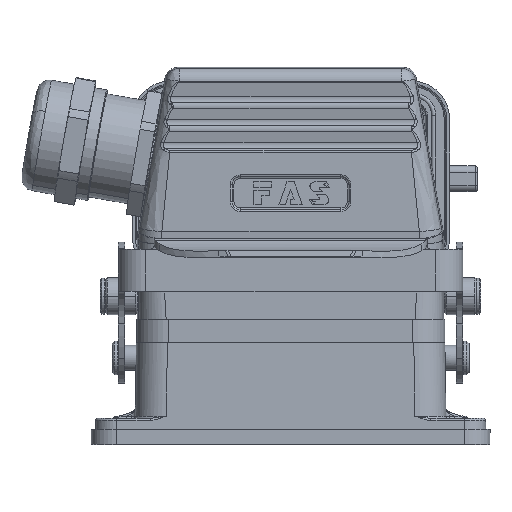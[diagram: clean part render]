
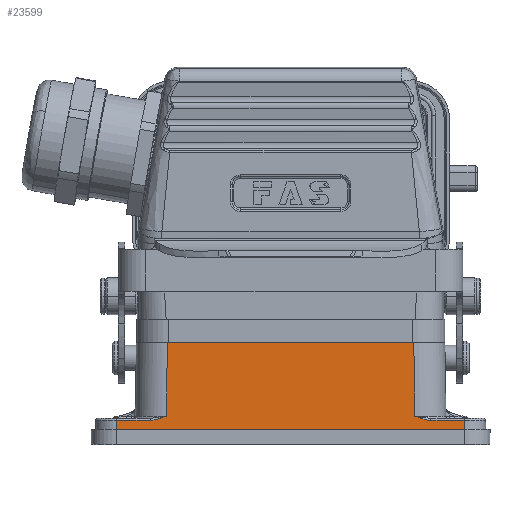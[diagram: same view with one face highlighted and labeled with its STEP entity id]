
A CAD part, top view. The second image highlights one B-rep face of the part: STEP entity #23599.
In plain terms, the highlighted planar face has unit normal (0, 0.014, 1) as drawn and (0, -1, 0.014) by its records, which use the part's own axes.
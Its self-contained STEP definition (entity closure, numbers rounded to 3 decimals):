
#6547 = CARTESIAN_POINT ( 'NONE',  ( 32.17, -21.756, 3.855 ) ) ;
#10218 = CARTESIAN_POINT ( 'NONE',  ( 41.5, -21.81, 0. ) ) ;
#16330 = CARTESIAN_POINT ( 'NONE',  ( -31.442, -21.754, 4.044 ) ) ;
#20515 = CARTESIAN_POINT ( 'NONE',  ( -31.028, -21.752, 4.173 ) ) ;
#22516 = EDGE_CURVE ( 'NONE', #68532, #151806, #271617, .T. ) ;
#23599 = ADVANCED_FACE ( 'NONE', ( #37215 ), #56978, .T. ) ;
#24834 = VERTEX_POINT ( 'NONE', #173853 ) ;
#25553 = ORIENTED_EDGE ( 'NONE', *, *, #162314, .F. ) ;
#31515 = EDGE_CURVE ( 'NONE', #265393, #243554, #188547, .T. ) ;
#33110 = EDGE_CURVE ( 'NONE', #125155, #169394, #50526, .T. ) ;
#33841 = CARTESIAN_POINT ( 'NONE',  ( 30.042, -21.747, 4.519 ) ) ;
#34047 = VECTOR ( 'NONE', #190116, 1000. ) ;
#37215 = FACE_OUTER_BOUND ( 'NONE', #48267, .T. ) ;
#38471 = EDGE_CURVE ( 'NONE', #133395, #68532, #85931, .T. ) ;
#38516 = EDGE_CURVE ( 'NONE', #273711, #24834, #39645, .T. ) ;
#39645 = LINE ( 'NONE', #84551, #42134 ) ;
#42134 = VECTOR ( 'NONE', #170333, 1000. ) ;
#43595 = CARTESIAN_POINT ( 'NONE',  ( -41.449, -21.758, 3.707 ) ) ;
#47437 = CARTESIAN_POINT ( 'NONE',  ( 30.947, -21.751, 4.2 ) ) ;
#48267 = EDGE_LOOP ( 'NONE', ( #223737, #151910, #258674, #25553, #57985, #224645, #204866, #98904, #79129, #259577, #159796 ) ) ;
#50526 = B_SPLINE_CURVE_WITH_KNOTS ( 'NONE', 3,
 ( #154242, #240209, #197936, #51625, #88185, #158407, #113402, #199297, #219023, #6547, #114792, #137346, #47437 ),
 .UNSPECIFIED., .F., .F.,
 ( 4, 1, 1, 1, 1, 1, 2, 2, 4 ),
 ( 0., 0.25, 0.375, 0.438, 0.469, 0.484, 0.492, 0.5, 1. ),
 .UNSPECIFIED. ) ;
#51625 = CARTESIAN_POINT ( 'NONE',  ( 32.554, -21.757, 3.781 ) ) ;
#55094 = VECTOR ( 'NONE', #82750, 1000. ) ;
#56256 = DIRECTION ( 'NONE',  ( -0.014, 0.014, 1. ) ) ;
#56978 = PLANE ( 'NONE',  #268115 ) ;
#57237 = CARTESIAN_POINT ( 'NONE',  ( -32.86, -21.758, 3.708 ) ) ;
#57985 = ORIENTED_EDGE ( 'NONE', *, *, #163702, .F. ) ;
#58615 = CARTESIAN_POINT ( 'NONE',  ( -31.463, -21.754, 4.037 ) ) ;
#63045 = B_SPLINE_CURVE_WITH_KNOTS ( 'NONE', 3,
 ( #233016, #213234, #170955, #20515, #82408, #187987, #211845, #16330, #104824, #190747, #58615, #123199, #209067, #57237, #273972 ),
 .UNSPECIFIED., .F., .F.,
 ( 4, 1, 1, 1, 1, 1, 1, 1, 2, 2, 4 ),
 ( 0., 0.25, 0.375, 0.438, 0.469, 0.484, 0.492, 0.496, 0.498, 0.5, 1. ),
 .UNSPECIFIED. ) ;
#68532 = VERTEX_POINT ( 'NONE', #10218 ) ;
#70262 = CARTESIAN_POINT ( 'NONE',  ( 29.432, -21.581, 16.364 ) ) ;
#71641 = CARTESIAN_POINT ( 'NONE',  ( 29.351, -21.5, 22.2 ) ) ;
#74714 = CARTESIAN_POINT ( 'NONE',  ( -41.5, -21.81, 0. ) ) ;
#74836 = CARTESIAN_POINT ( 'NONE',  ( -41.449, -21.758, 3.707 ) ) ;
#78684 = CARTESIAN_POINT ( 'NONE',  ( 41.5, -21.81, 0. ) ) ;
#79129 = ORIENTED_EDGE ( 'NONE', *, *, #275884, .T. ) ;
#82408 = CARTESIAN_POINT ( 'NONE',  ( -31.257, -21.753, 4.1 ) ) ;
#82750 = DIRECTION ( 'NONE',  ( 1., 0., 0. ) ) ;
#82957 = DIRECTION ( 'NONE',  ( -1., 0., 0. ) ) ;
#84551 = CARTESIAN_POINT ( 'NONE',  ( -29.351, -21.5, 22.2 ) ) ;
#84877 = CARTESIAN_POINT ( 'NONE',  ( 41.449, -21.758, 3.707 ) ) ;
#85931 = LINE ( 'NONE', #171719, #253512 ) ;
#88185 = CARTESIAN_POINT ( 'NONE',  ( 32.361, -21.757, 3.816 ) ) ;
#98904 = ORIENTED_EDGE ( 'NONE', *, *, #31515, .T. ) ;
#102884 = DIRECTION ( 'NONE',  ( 1., 0., 0. ) ) ;
#104215 = CARTESIAN_POINT ( 'NONE',  ( -48.758, -21.758, 3.707 ) ) ;
#104824 = CARTESIAN_POINT ( 'NONE',  ( -31.454, -21.754, 4.04 ) ) ;
#110936 = DIRECTION ( 'NONE',  ( -0.014, -0.014, -1. ) ) ;
#113402 = CARTESIAN_POINT ( 'NONE',  ( 32.213, -21.756, 3.846 ) ) ;
#114792 = CARTESIAN_POINT ( 'NONE',  ( 31.793, -21.755, 3.937 ) ) ;
#119400 = LINE ( 'NONE', #123565, #55094 ) ;
#123199 = CARTESIAN_POINT ( 'NONE',  ( -31.464, -21.754, 4.037 ) ) ;
#123565 = CARTESIAN_POINT ( 'NONE',  ( 0., -21.5, 22.2 ) ) ;
#125155 = VERTEX_POINT ( 'NONE', #229751 ) ;
#125352 = LINE ( 'NONE', #104215, #34047 ) ;
#129934 = B_SPLINE_CURVE_WITH_KNOTS ( 'NONE', 3,
 ( #71641, #70262, #156028, #134921 ),
 .UNSPECIFIED., .F., .F.,
 ( 4, 4 ),
 ( 0., 1. ),
 .UNSPECIFIED. ) ;
#133395 = VERTEX_POINT ( 'NONE', #74714 ) ;
#134921 = CARTESIAN_POINT ( 'NONE',  ( 29.595, -21.744, 4.693 ) ) ;
#137346 = CARTESIAN_POINT ( 'NONE',  ( 31.388, -21.753, 4.052 ) ) ;
#140783 = EDGE_CURVE ( 'NONE', #151806, #125155, #125352, .T. ) ;
#143678 = CARTESIAN_POINT ( 'NONE',  ( -33.417, -21.758, 3.707 ) ) ;
#144075 = DIRECTION ( 'NONE',  ( 0., -1., 0.014 ) ) ;
#146734 = CARTESIAN_POINT ( 'NONE',  ( 29.351, -21.5, 22.2 ) ) ;
#151806 = VERTEX_POINT ( 'NONE', #84877 ) ;
#151910 = ORIENTED_EDGE ( 'NONE', *, *, #33110, .T. ) ;
#154242 = CARTESIAN_POINT ( 'NONE',  ( 33.417, -21.758, 3.707 ) ) ;
#156028 = CARTESIAN_POINT ( 'NONE',  ( 29.514, -21.663, 10.529 ) ) ;
#158407 = CARTESIAN_POINT ( 'NONE',  ( 32.263, -21.756, 3.836 ) ) ;
#159796 = ORIENTED_EDGE ( 'NONE', *, *, #22516, .T. ) ;
#161805 = CARTESIAN_POINT ( 'NONE',  ( 30.947, -21.751, 4.2 ) ) ;
#162314 = EDGE_CURVE ( 'NONE', #255422, #270459, #129934, .T. ) ;
#163702 = EDGE_CURVE ( 'NONE', #273711, #255422, #119400, .T. ) ;
#165734 = CARTESIAN_POINT ( 'NONE',  ( 30.947, -21.751, 4.2 ) ) ;
#169394 = VERTEX_POINT ( 'NONE', #165734 ) ;
#170333 = DIRECTION ( 'NONE',  ( -0.014, -0.014, -1. ) ) ;
#170738 = EDGE_CURVE ( 'NONE', #24834, #265393, #63045, .T. ) ;
#170955 = CARTESIAN_POINT ( 'NONE',  ( -30.518, -21.749, 4.346 ) ) ;
#171719 = CARTESIAN_POINT ( 'NONE',  ( 0., -21.81, 0. ) ) ;
#173853 = CARTESIAN_POINT ( 'NONE',  ( -29.595, -21.744, 4.693 ) ) ;
#174617 = VECTOR ( 'NONE', #110936, 1000. ) ;
#182936 = CARTESIAN_POINT ( 'NONE',  ( 30.493, -21.749, 4.355 ) ) ;
#183544 = DIRECTION ( 'NONE',  ( -1., 0., 0. ) ) ;
#187987 = CARTESIAN_POINT ( 'NONE',  ( -31.364, -21.753, 4.067 ) ) ;
#188547 = LINE ( 'NONE', #275912, #260133 ) ;
#190116 = DIRECTION ( 'NONE',  ( -1., 0., 0. ) ) ;
#190747 = CARTESIAN_POINT ( 'NONE',  ( -31.46, -21.754, 4.038 ) ) ;
#191250 = VECTOR ( 'NONE', #56256, 1000. ) ;
#192085 = CARTESIAN_POINT ( 'NONE',  ( 29.595, -21.744, 4.693 ) ) ;
#197936 = CARTESIAN_POINT ( 'NONE',  ( 32.928, -21.758, 3.726 ) ) ;
#199297 = CARTESIAN_POINT ( 'NONE',  ( 32.192, -21.756, 3.851 ) ) ;
#204866 = ORIENTED_EDGE ( 'NONE', *, *, #170738, .T. ) ;
#209067 = CARTESIAN_POINT ( 'NONE',  ( -32.21, -21.757, 3.818 ) ) ;
#211845 = CARTESIAN_POINT ( 'NONE',  ( -31.416, -21.753, 4.051 ) ) ;
#213042 = CARTESIAN_POINT ( 'NONE',  ( -29.351, -21.5, 22.2 ) ) ;
#213234 = CARTESIAN_POINT ( 'NONE',  ( -29.989, -21.747, 4.542 ) ) ;
#217803 = EDGE_CURVE ( 'NONE', #169394, #270459, #240076, .T. ) ;
#219023 = CARTESIAN_POINT ( 'NONE',  ( 32.178, -21.756, 3.854 ) ) ;
#223737 = ORIENTED_EDGE ( 'NONE', *, *, #140783, .T. ) ;
#224645 = ORIENTED_EDGE ( 'NONE', *, *, #38516, .T. ) ;
#229751 = CARTESIAN_POINT ( 'NONE',  ( 33.417, -21.758, 3.707 ) ) ;
#229955 = CARTESIAN_POINT ( 'NONE',  ( -48.758, -21.5, 22.2 ) ) ;
#233016 = CARTESIAN_POINT ( 'NONE',  ( -29.595, -21.744, 4.693 ) ) ;
#240076 = B_SPLINE_CURVE_WITH_KNOTS ( 'NONE', 3,
 ( #161805, #182936, #33841, #246378 ),
 .UNSPECIFIED., .F., .F.,
 ( 4, 4 ),
 ( 0., 1. ),
 .UNSPECIFIED. ) ;
#240209 = CARTESIAN_POINT ( 'NONE',  ( 33.227, -21.758, 3.707 ) ) ;
#243554 = VERTEX_POINT ( 'NONE', #74836 ) ;
#246378 = CARTESIAN_POINT ( 'NONE',  ( 29.595, -21.744, 4.693 ) ) ;
#253512 = VECTOR ( 'NONE', #102884, 1000. ) ;
#255422 = VERTEX_POINT ( 'NONE', #146734 ) ;
#258674 = ORIENTED_EDGE ( 'NONE', *, *, #217803, .T. ) ;
#259577 = ORIENTED_EDGE ( 'NONE', *, *, #38471, .T. ) ;
#260133 = VECTOR ( 'NONE', #82957, 1000. ) ;
#265393 = VERTEX_POINT ( 'NONE', #143678 ) ;
#268115 = AXIS2_PLACEMENT_3D ( 'NONE', #229955, #144075, #183544 ) ;
#270459 = VERTEX_POINT ( 'NONE', #192085 ) ;
#271617 = LINE ( 'NONE', #78684, #191250 ) ;
#273711 = VERTEX_POINT ( 'NONE', #213042 ) ;
#273972 = CARTESIAN_POINT ( 'NONE',  ( -33.417, -21.758, 3.707 ) ) ;
#275884 = EDGE_CURVE ( 'NONE', #243554, #133395, #278677, .T. ) ;
#275912 = CARTESIAN_POINT ( 'NONE',  ( -48.758, -21.758, 3.707 ) ) ;
#278677 = LINE ( 'NONE', #43595, #174617 ) ;
